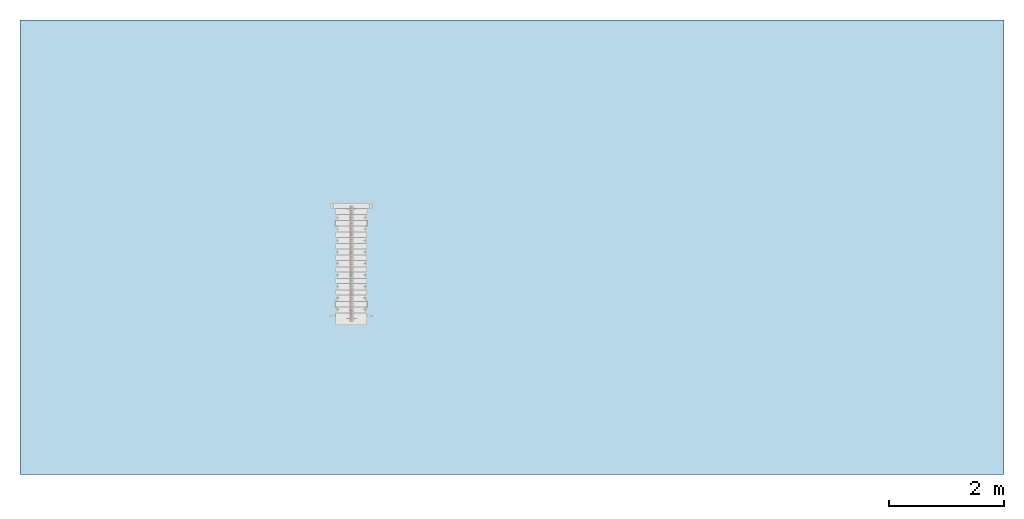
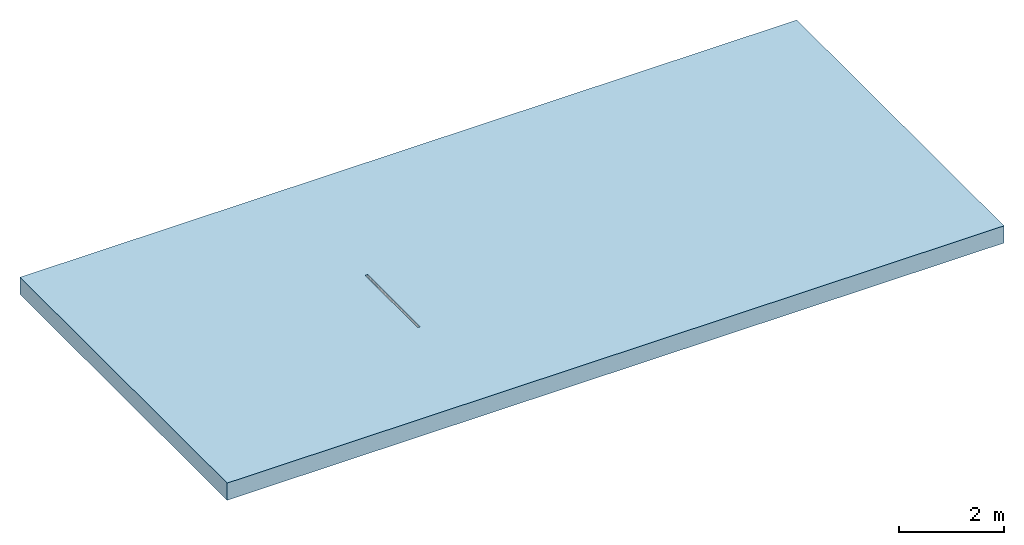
# One storey, incomplete: 1 slab, 1 opening.
"""IFC2X3 building model written with IfcOpenShell, lengths in millimetres."""

from ifc_helpers import new_model, entity, si_unit, converted_unit, direction, frame, frame_2d, origin, place, context, subcontext, project, spatial, polyline, rectangle, outline, extrude, material, layer, layer_set, layer_usage, element, save


model = new_model("IFC2X3")

# Units and contexts
model_context = context("Model", 3, precision=1e-06, world=origin(), true_north=direction((2.0, 6.12303176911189e-17, 1.0)))
context_of_model = context(None, 3, precision=1e-06, world=origin(), true_north=direction((2.0, 6.12303176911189e-17, 1.0)))
body_context = subcontext(model_context, "Body", "Model", "MODEL_VIEW")
ifc_project = project(units=[si_unit("LENGTHUNIT", "METRE", prefix="MILLI"), si_unit("AREAUNIT", "SQUARE_METRE", prefix="MILLI"), si_unit("VOLUMEUNIT", "CUBIC_METRE", prefix="MILLI"), converted_unit("PLANEANGLEUNIT", "DEGREE", entity("IfcRatioMeasure", 0.0174532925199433), si_unit("PLANEANGLEUNIT", "RADIAN"), dimensions=[0, 0, 0, 0, 0, 0, 0]), si_unit("TIMEUNIT", "SECOND")], contexts=[model_context, context_of_model])

# Site, building, storey
site_placement = place(None, origin())
site = spatial("IfcSite", under=ifc_project, at=site_placement, Name="Default", CompositionType="ELEMENT")
building_placement = place(site_placement, origin())
building = spatial("IfcBuilding", under=site, at=building_placement, CompositionType="ELEMENT")
storey_placement = place(building_placement, origin())
storey = spatial("IfcBuildingStorey", under=building, at=storey_placement, Name="Level 1", CompositionType="ELEMENT", Elevation=0.0)

# Slab, opening
ifc_material = material(Name="Plant")
ifc_layer = layer(ifc_material, 400.0)
ifc_layer_set = layer_set([ifc_layer], Name="Floor:Generic Floor - 400mm")
ifc_layer_usage = layer_usage(ifc_layer_set, "AXIS3", "POSITIVE", 0.0)
slab_placement = place(storey_placement, origin())
slab = element("IfcSlab", 1, at=slab_placement, inside=storey, material=ifc_layer_usage, Name="Floor:Generic Floor - 400mm", ObjectType="Floor:Generic Floor - 400mm", PredefinedType="FLOOR", context=body_context, shape_type="SweptSolid", body=[
    extrude(rectangle(XDim=7900.0, YDim=17100.0, at=frame_2d((0.0, 0.0), x_axis=(0.0, -1.0))), frame((-8097.86261836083, 1059.07636553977, 0.0), z_axis=(0.0, 0.0, -1.0), x_axis=(-1.0, 0.0, 0.0)), (0.0, 0.0, 1.0), 400.0),
])
opening_placement = place(slab_placement, origin())
element("IfcOpeningElement", 2, at=opening_placement, cuts=slab, ObjectType="Opening", context=body_context, shape_type="SweptSolid", body=[
    extrude(outline(polyline([(-292.500000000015, 27.5000000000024), (-292.500000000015, -27.4999999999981), (-242.499999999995, -27.4999999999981), (-242.499999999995, -387.499999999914), (777.500000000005, -387.499999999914), (777.500000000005, 387.499999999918), (-242.499999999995, 387.499999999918), (-242.499999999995, 27.5000000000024), (-292.500000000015, 27.5000000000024)])), frame((-10890.0939391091, -226.594513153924, -292.499999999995), z_axis=(0.0, -1.0, 0.0), x_axis=(0.0, 0.0, -1.0)), (0.0, 0.0, -1.0), 2000.0),
])

save(model, "model.ifc")
